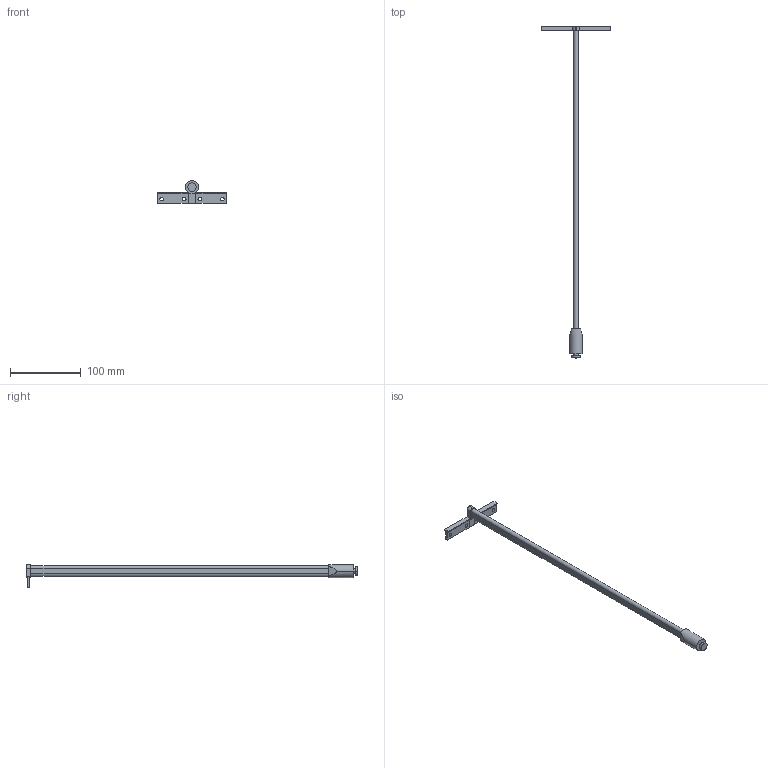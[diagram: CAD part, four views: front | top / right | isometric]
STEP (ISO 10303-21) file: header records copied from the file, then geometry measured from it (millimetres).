
FILE_DESCRIPTION (( 'STEP AP214' ), '1' );
FILE_NAME ('DWD-XP_Reling-Haengeregister_NL475_links.step', '2010-10-06T11:19:42', ( 'grass' ), ( '' ), 'SwSTEP 2.0', 'SolidWorks 2010', '' );
FILE_SCHEMA (( 'AUTOMOTIVE_DESIGN' ));
Length unit declared in the file: millimetre
Products named in the file (1): DWD-XP_Reling-Haengeregister_NL475_links
Bounding box: 97.9 x 469.3 x 32.15 mm (x, y, z)
Volume: 105922.7 mm3; surface area: 43367.3 mm2
Topology: 2 solids, 2 shells, 68 faces, 168 edges, 112 vertices
Faces by surface type: plane 40, cylinder 28
Entity records: 2087 total; most frequent: CARTESIAN_POINT 373, DIRECTION 354, ORIENTED_EDGE 336, EDGE_CURVE 168, AXIS2_PLACEMENT_3D 125, VERTEX_POINT 112, VECTOR 104, LINE 104
